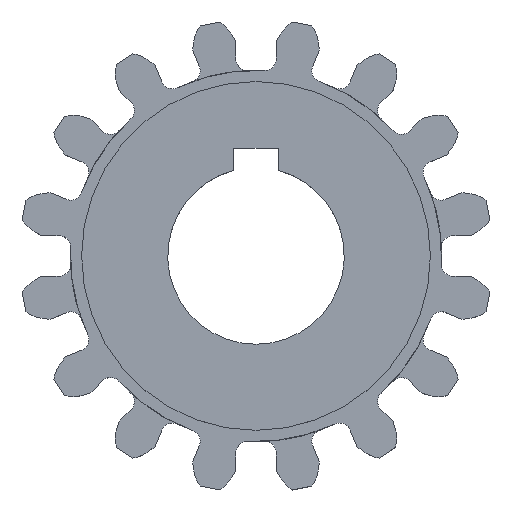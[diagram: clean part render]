
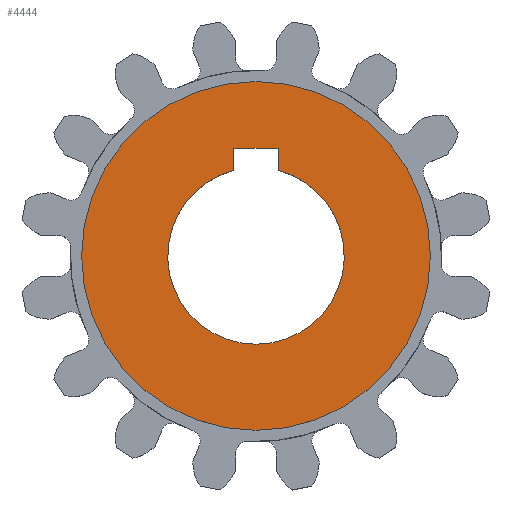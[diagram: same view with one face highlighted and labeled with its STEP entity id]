
A CAD part, top view. The second image highlights one B-rep face of the part: STEP entity #4444.
In plain terms, the highlighted planar face has unit normal (0, 0, 1).
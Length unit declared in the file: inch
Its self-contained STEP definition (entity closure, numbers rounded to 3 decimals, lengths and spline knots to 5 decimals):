
#1135=CARTESIAN_POINT('',(0.,0.,0.41));
#1136=DIRECTION('',(0.,0.,1.));
#1137=DIRECTION('',(1.,0.,0.));
#1138=AXIS2_PLACEMENT_3D('',#1135,#1136,#1137);
#1140=CARTESIAN_POINT('',(0.,0.,0.41));
#1141=DIRECTION('',(0.,0.,1.));
#1142=DIRECTION('',(-1.,0.,0.));
#1143=AXIS2_PLACEMENT_3D('',#1140,#1141,#1142);
#1145=DIRECTION('',(0.,-1.,0.));
#1146=VECTOR('',#1145,0.25);
#1147=CARTESIAN_POINT('',(-0.25,1.21825,0.41));
#1148=LINE('',#1147,#1146);
#1149=CARTESIAN_POINT('',(0.,0.,0.41));
#1150=DIRECTION('',(0.,0.,1.));
#1151=DIRECTION('',(-0.25,0.968,0.));
#1152=AXIS2_PLACEMENT_3D('',#1149,#1150,#1151);
#1154=DIRECTION('',(0.,1.,0.));
#1155=VECTOR('',#1154,0.25);
#1156=CARTESIAN_POINT('',(0.25,0.96825,0.41));
#1157=LINE('',#1156,#1155);
#1158=DIRECTION('',(-1.,0.,0.));
#1159=VECTOR('',#1158,0.5);
#1160=CARTESIAN_POINT('',(0.25,1.21825,0.41));
#1161=LINE('',#1160,#1159);
#2563=CARTESIAN_POINT('',(1.975,0.,0.41));
#2564=CARTESIAN_POINT('',(-1.975,0.,0.41));
#2565=VERTEX_POINT('',#2563);
#2566=VERTEX_POINT('',#2564);
#2887=CARTESIAN_POINT('',(-0.25,1.21825,0.41));
#2888=CARTESIAN_POINT('',(-0.25,0.96825,0.41));
#2889=VERTEX_POINT('',#2887);
#2890=VERTEX_POINT('',#2888);
#2891=CARTESIAN_POINT('',(0.25,0.96825,0.41));
#2892=VERTEX_POINT('',#2891);
#2893=CARTESIAN_POINT('',(0.25,1.21825,0.41));
#2894=VERTEX_POINT('',#2893);
#4425=CARTESIAN_POINT('',(0.,0.,0.41));
#4426=DIRECTION('',(0.,0.,1.));
#4427=DIRECTION('',(1.,0.,0.));
#4428=AXIS2_PLACEMENT_3D('',#4425,#4426,#4427);
#4429=PLANE('',#4428);
#4430=ORIENTED_EDGE('',*,*,#4375,.F.);
#4431=ORIENTED_EDGE('',*,*,#4405,.F.);
#4432=EDGE_LOOP('',(#4430,#4431));
#4433=FACE_OUTER_BOUND('',#4432,.F.);
#4435=ORIENTED_EDGE('',*,*,#4434,.T.);
#4437=ORIENTED_EDGE('',*,*,#4436,.T.);
#4439=ORIENTED_EDGE('',*,*,#4438,.T.);
#4441=ORIENTED_EDGE('',*,*,#4440,.T.);
#4442=EDGE_LOOP('',(#4435,#4437,#4439,#4441));
#4443=FACE_BOUND('',#4442,.F.);
#4444=ADVANCED_FACE('',(#4433,#4443),#4429,.T.);
#1139=CIRCLE('',#1138,1.975);
#1144=CIRCLE('',#1143,1.975);
#1153=CIRCLE('',#1152,1.);
#4375=EDGE_CURVE('',#2565,#2566,#1139,.T.);
#4405=EDGE_CURVE('',#2566,#2565,#1144,.T.);
#4434=EDGE_CURVE('',#2889,#2890,#1148,.T.);
#4436=EDGE_CURVE('',#2890,#2892,#1153,.T.);
#4438=EDGE_CURVE('',#2892,#2894,#1157,.T.);
#4440=EDGE_CURVE('',#2894,#2889,#1161,.T.);
